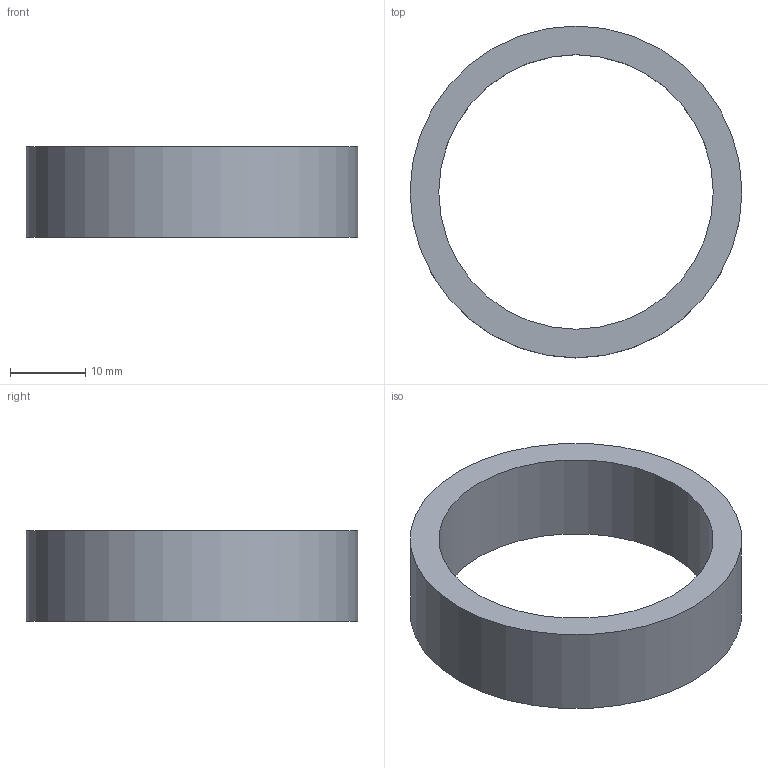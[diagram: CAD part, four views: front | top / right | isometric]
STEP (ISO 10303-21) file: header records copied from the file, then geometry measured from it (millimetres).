
FILE_DESCRIPTION(('Open CASCADE Model'),'2;1');
FILE_NAME('Open CASCADE Shape Model','2026-10-04T01:02:34',('Author'),( 'Open CASCADE'),'Open CASCADE STEP processor 8.0','Open CASCADE 8.0' ,'Unknown');
FILE_SCHEMA(('AUTOMOTIVE_DESIGN { 1 0 10303 214 1 1 1 1 }'));
Length unit declared in the file: millimetre
Products named in the file (1): Open CASCADE STEP translator 8.0 372
Bounding box: 44 x 44 x 12 mm (x, y, z)
Volume: 5758.9 mm3; surface area: 3990.8 mm2
Topology: 1 solids, 1 shells, 4 faces, 6 edges, 4 vertices
Faces by surface type: cylinder 2, plane 2
Full cylindrical faces by diameter (mm): 36.4 x1, 44 x1
Entity records: 186 total; most frequent: DIRECTION 32, CARTESIAN_POINT 27, ORIENTED_EDGE 12, PCURVE 12, DEFINITIONAL_REPRESENTATION 12, LINE 10, VECTOR 10, AXIS2_PLACEMENT_3D 9
